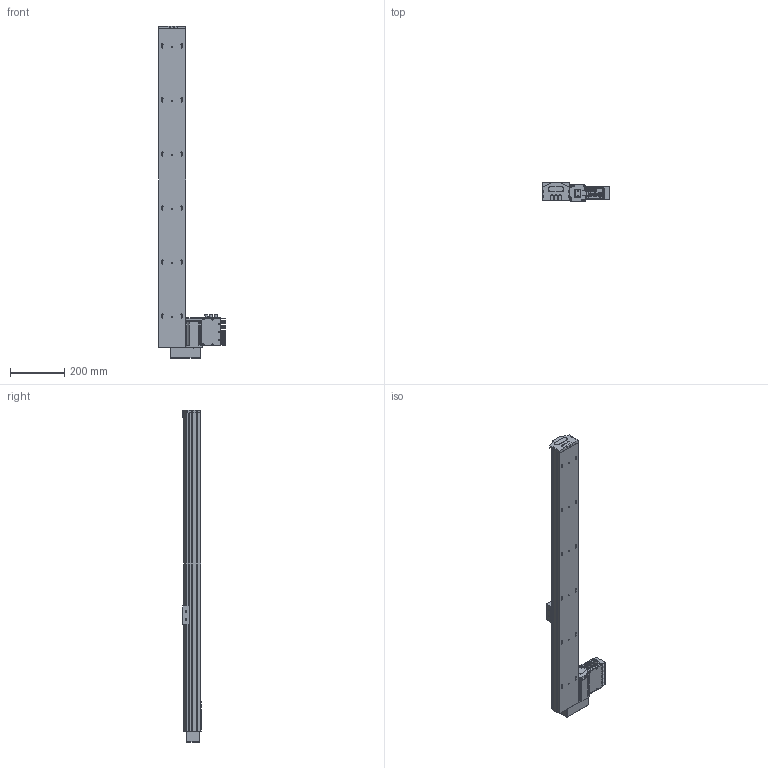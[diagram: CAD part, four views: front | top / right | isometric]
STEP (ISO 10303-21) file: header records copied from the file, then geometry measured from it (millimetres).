
FILE_DESCRIPTION (( 'STEP AP203' ), '1' );
FILE_NAME ('S10 TSN BR S1000.STEP', '2012-09-03T09:14:22', ( 'Conseil Régional Haute-Normandie' ), ( 'Conseil Régional Haute-Normandie' ), 'SwSTEP 2.0', 'SolidWorks 2010', '' );
FILE_SCHEMA (( 'CONFIG_CONTROL_DESIGN' ));
Length unit declared in the file: millimetre
Products named in the file (25): T_X2_00F4_X0_le contre le moteur_5; BU41 Carte Alimentation P05_3; Connecteur rond D10 3cts_5; T_X2_00F4_X0_le fond_3; Connecteur rond D12 4cts_5; T_X2_00F4_X0_le lat_X2_00E9_X0_rale_5; Vis TF 3 torkx_1_1; remplir_Default; embout_modifié; Pièce2_Default; S10 TSN BR S1000; Assem1_7; Colonnette_3; BU45 Carte d''axe A11_5; Moteur 60BLDC90A_3; Couvercle_3; Sub D 9cts 90_X2_00B_X0__3; Radiateur profil_X2_00E9_X0_ 100x25_3; Colonnette ronde_3; T_X2_00F4_X0_le Arri_X2_00E8_X0_re_5; axe1187; palette tbn; renvoi LH_Default; piece_plastique remplie_Default; Vis TF 3 torkx
Assembly tree (55 placements, depth 3):
  S10 TSN BR S1000
    axe1187
    palette tbn
    Vis TF 3 torkx  x7
    Assem1_7
      Vis TF 3 torkx_1_1  x21
      Colonnette_3  x2
      T_X2_00F4_X0_le lat_X2_00E9_X0_rale_5  x2
      Radiateur profil_X2_00E9_X0_ 100x25_3
      T_X2_00F4_X0_le contre le moteur_5
      BU41 Carte Alimentation P05_3
      T_X2_00F4_X0_le fond_3
      Connecteur rond D10 3cts_5  x2
      Connecteur rond D12 4cts_5
      BU45 Carte d''axe A11_5
      Colonnette ronde_3
      Moteur 60BLDC90A_3
      Couvercle_3
      T_X2_00F4_X0_le Arri_X2_00E8_X0_re_5
      Sub D 9cts 90_X2_00B_X0__3
    piece_plastique remplie_Default
      embout_modifié
      remplir_Default  x3
      Pièce2_Default
    renvoi LH_Default
Bounding box: 248 x 69.37 x 1229.5 mm (x, y, z)
Volume: 6820106.7 mm3; surface area: 823032.5 mm2
Topology: 53 solids, 53 shells, 1982 faces, 5040 edges, 3286 vertices
Faces by surface type: plane 930, cylinder 889, cone 156, bspline 4, torus 3
Entity records: 39143 total; most frequent: CARTESIAN_POINT 6608, DIRECTION 6383, ORIENTED_EDGE 5788, EDGE_CURVE 2894, AXIS2_PLACEMENT_3D 2350, VERTEX_POINT 1898, LINE 1683, VECTOR 1683
